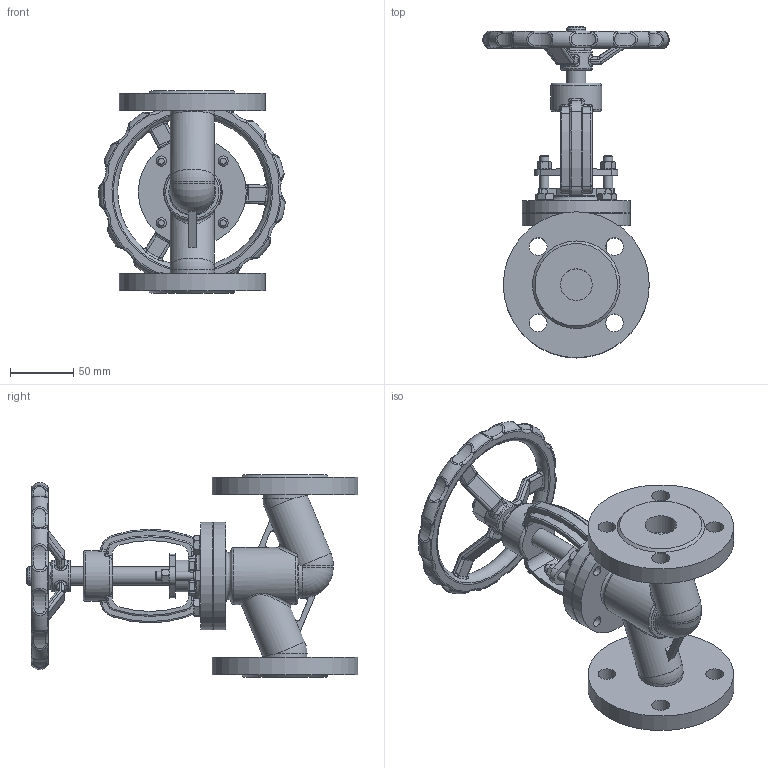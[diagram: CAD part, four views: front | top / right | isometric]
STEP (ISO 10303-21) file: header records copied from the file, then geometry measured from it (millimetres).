
FILE_DESCRIPTION(('STEP AP203'), '1');
FILE_NAME('VSO3131M-F-S 孰囡囗 玎镱痦 DN.ru 捏25 畜16', '2026-04-15T20:03:36', ('R2D2'), (''), 'C3D Converter', 'C3D Toolkit', '');
FILE_SCHEMA(('CONFIG_CONTROL_DESIGN'));
Length unit declared in the file: millimetre
Products named in the file (1): VSO3131M-F-S
Bounding box: 147.12 x 261.6 x 160 mm (x, y, z)
Volume: 774144.2 mm3; surface area: 146605.9 mm2
Topology: 1 solids, 1 shells, 969 faces, 2359 edges, 1416 vertices
Faces by surface type: plane 288, cylinder 201, torus 140, extrusion 124, bspline 81, cone 71, sphere 64
Full cylindrical faces by diameter (mm): 5 x8, 7 x4, 8 x6, 13 x4, 14 x8, 15 x3, 18 x1, 25 x4, 35 x5, 40 x1, 45 x1, 85 x2, 115 x2
Entity records: 64735 total; most frequent: CARTESIAN_POINT 35880, ORIENTED_EDGE 4496, DIRECTION 3984, EDGE_CURVE 2248, AXIS2_PLACEMENT_3D 1578, VERTEX_POINT 1403, EDGE_LOOP 1123, FACE_BOUND 1024
